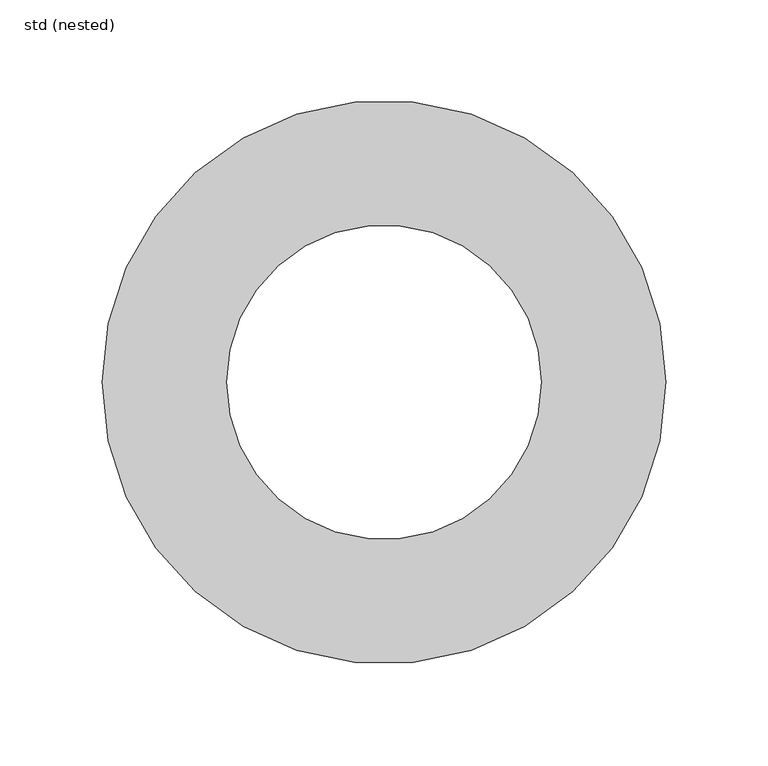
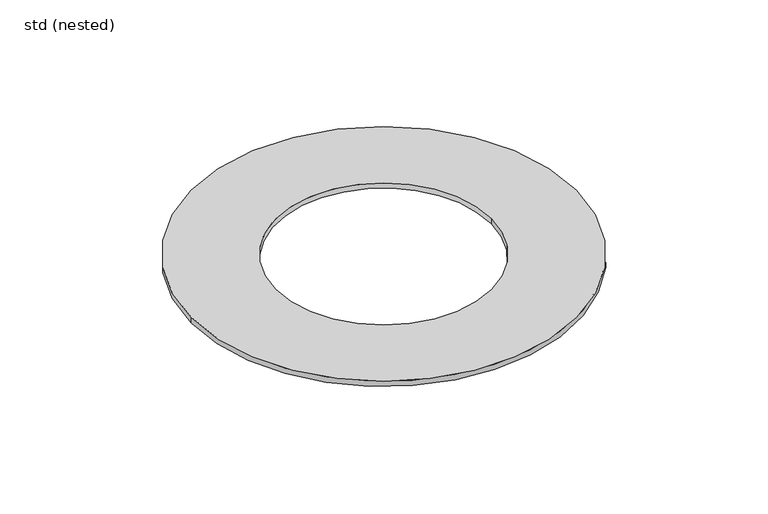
"""IFC4 building model written with IfcOpenShell, lengths in millimetres: sanitary terminal geometry, ZZZ_do not use_PF_GEN_flange seal for Passavant Spin_ACO : std (nested)."""

from ifc_helpers import new_model, si_unit, point, origin, origin_with_axes, origin_2d, place, context, project, spatial, circle_curve, trimmed, segment, composite_curve, outline, extrude, source, transform, mapped, element, save


def std_nested_c62c83a8(model_context):
    return source(origin(), model_context, "Body", "SweptSolid", [
        extrude(outline(composite_curve([segment(trimmed(circle_curve(origin_2d(), 138.0), [point((-138.0, 0.0))], [point((138.0, 0.0))], False, "CARTESIAN"), True, "CONTINUOUS"), segment(trimmed(circle_curve(origin_2d(), 138.0), [point((138.0, 0.0))], [point((-138.0, 0.0))], False, "CARTESIAN"), True, "CONTINUOUS")], self_intersect=False), holes=[composite_curve([segment(trimmed(circle_curve(origin_2d(), 77.0), [point((-77.0, 0.0))], [point((77.0, 0.0))], True, "CARTESIAN"), True, "CONTINUOUS"), segment(trimmed(circle_curve(origin_2d(), 77.0), [point((77.0, 0.0))], [point((-77.0, 0.0))], True, "CARTESIAN"), True, "CONTINUOUS")], self_intersect=False)]), origin_with_axes(), (0.0, 0.0, 1.0), 4.0),
    ])


if __name__ == "__main__":
    model = new_model("IFC4")
    model_context = context("Model", 3, world=origin())
    ifc_project = project(units=[si_unit("LENGTHUNIT", "METRE", prefix="MILLI")], contexts=[model_context])
    site = spatial("IfcSite", under=ifc_project)
    building = spatial("IfcBuilding", under=site)
    placement = place(None, origin())
    std_nested_shape = std_nested_c62c83a8(model_context)
    element("IfcSanitaryTerminal", 1, ObjectType="ZZZ_do not use_PF_GEN_flange seal for Passavant Spin_ACO : std (nested)", at=placement, inside=building, context=model_context, shape_type="MappedRepresentation", body=[
        mapped(std_nested_shape, transform((0.0, 0.0, 0.0), x_axis=(1.0, 0.0, 0.0), y_axis=(0.0, 1.0, 0.0), z_axis=(0.0, 0.0, 1.0))),
    ])
    save(model, "model.ifc")
